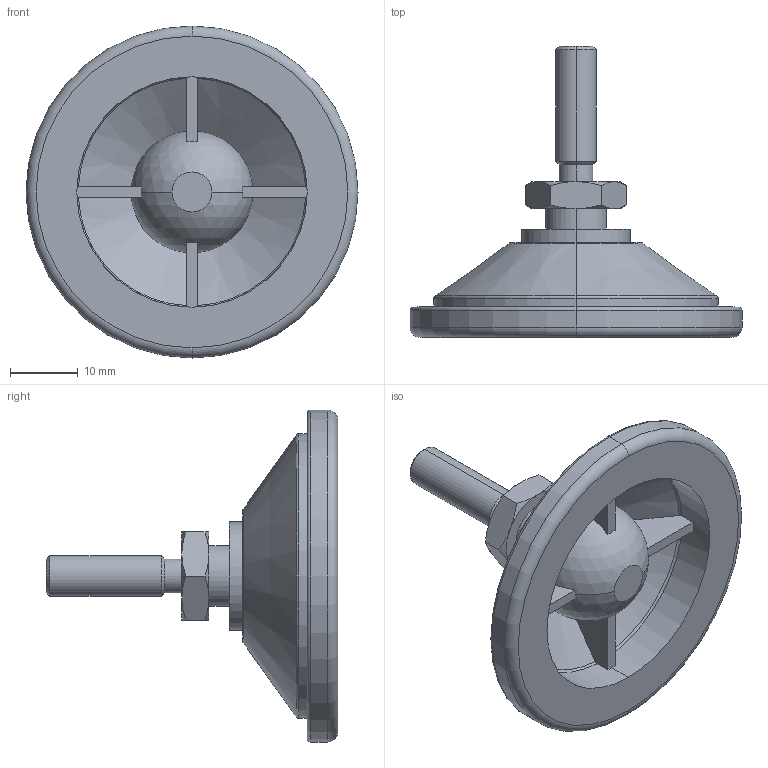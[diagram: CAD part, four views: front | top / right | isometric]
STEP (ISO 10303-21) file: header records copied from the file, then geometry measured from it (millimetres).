
FILE_DESCRIPTION (( 'STEP AP203' ), '1' );
FILE_NAME ('3472.W061.step', '2009-10-21T16:57:04', ( 'Wixroyd' ), ( 'Wixroyd' ), 'SwSTEP 2.0', 'SolidWorks 2009', '' );
FILE_SCHEMA (( 'CONFIG_CONTROL_DESIGN' ));
Length unit declared in the file: millimetre
Products named in the file (3): 3472.W061; Part1_3472W061; Part2_3472W061
Assembly tree (2 placements, depth 2):
  3472.W061
    Part2_3472W061
    Part1_3472W061
Bounding box: 49 x 43 x 49 mm (x, y, z)
Volume: 12032 mm3; surface area: 8362.7 mm2
Topology: 2 solids, 2 shells, 94 faces, 229 edges, 143 vertices
Faces by surface type: plane 38, cone 22, cylinder 16, torus 12, sphere 6
Entity records: 3159 total; most frequent: CARTESIAN_POINT 659, DIRECTION 508, ORIENTED_EDGE 442, AXIS2_PLACEMENT_3D 228, EDGE_CURVE 221, VERTEX_POINT 139, CIRCLE 129, EDGE_LOOP 102
